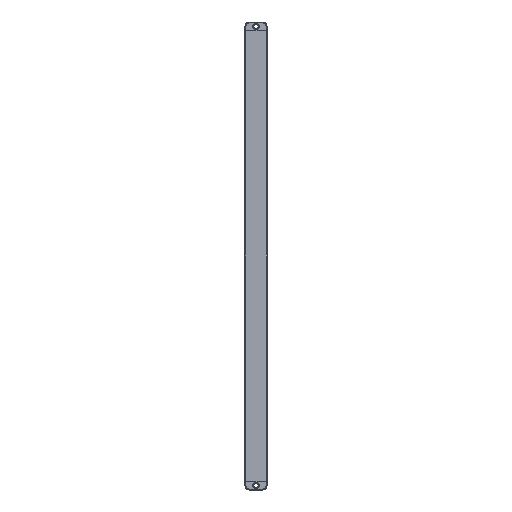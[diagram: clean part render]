
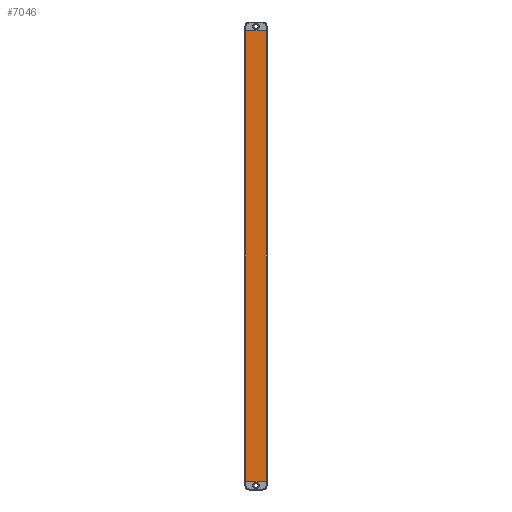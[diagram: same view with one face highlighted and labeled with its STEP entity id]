
A CAD part, front view. The second image highlights one B-rep face of the part: STEP entity #7046.
In plain terms, the highlighted planar face has unit normal (0, -1, 0).
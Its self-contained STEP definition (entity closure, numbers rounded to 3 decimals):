
#212 = CARTESIAN_POINT ( 'NONE',  ( -11.5, -6., 510. ) ) ;
#1108 = CARTESIAN_POINT ( 'NONE',  ( -0.005, -6., 0. ) ) ;
#1227 = DIRECTION ( 'NONE',  ( 0., 0., 1. ) ) ;
#1237 = DIRECTION ( 'NONE',  ( 0., 0., -1. ) ) ;
#1273 = EDGE_CURVE ( 'NONE', #6026, #8601, #9316, .T. ) ;
#1343 = VECTOR ( 'NONE', #1237, 1000. ) ;
#1371 = CARTESIAN_POINT ( 'NONE',  ( -11.5, -6., 510. ) ) ;
#2089 = PLANE ( 'NONE',  #4734 ) ;
#2361 = CARTESIAN_POINT ( 'NONE',  ( 11.5, -6., 0. ) ) ;
#2587 = EDGE_CURVE ( 'NONE', #6026, #11173, #8152, .T. ) ;
#3740 = DIRECTION ( 'NONE',  ( 0., 0., -1. ) ) ;
#3802 = CARTESIAN_POINT ( 'NONE',  ( 11.5, -6., 510. ) ) ;
#3809 = ORIENTED_EDGE ( 'NONE', *, *, #2587, .T. ) ;
#4028 = EDGE_CURVE ( 'NONE', #11173, #6399, #9051, .T. ) ;
#4643 = DIRECTION ( 'NONE',  ( 1., 0., 0. ) ) ;
#4734 = AXIS2_PLACEMENT_3D ( 'NONE', #5632, #9169, #1227 ) ;
#4907 = DIRECTION ( 'NONE',  ( 1., 0., 0. ) ) ;
#5632 = CARTESIAN_POINT ( 'NONE',  ( -0.005, -6., 510. ) ) ;
#5644 = LINE ( 'NONE', #9179, #1343 ) ;
#6026 = VERTEX_POINT ( 'NONE', #11378 ) ;
#6110 = VECTOR ( 'NONE', #3740, 1000. ) ;
#6399 = VERTEX_POINT ( 'NONE', #2361 ) ;
#7046 = ADVANCED_FACE ( 'NONE', ( #10043 ), #2089, .F. ) ;
#7868 = VECTOR ( 'NONE', #4643, 1000. ) ;
#7879 = ORIENTED_EDGE ( 'NONE', *, *, #10401, .F. ) ;
#7918 = ORIENTED_EDGE ( 'NONE', *, *, #4028, .T. ) ;
#7934 = CARTESIAN_POINT ( 'NONE',  ( -11.5, -6., 0. ) ) ;
#8152 = LINE ( 'NONE', #212, #6110 ) ;
#8473 = VECTOR ( 'NONE', #4907, 1000. ) ;
#8601 = VERTEX_POINT ( 'NONE', #3802 ) ;
#9051 = LINE ( 'NONE', #1108, #7868 ) ;
#9169 = DIRECTION ( 'NONE',  ( 0., 1., 0. ) ) ;
#9179 = CARTESIAN_POINT ( 'NONE',  ( 11.5, -6., 510. ) ) ;
#9316 = LINE ( 'NONE', #1371, #8473 ) ;
#9731 = EDGE_LOOP ( 'NONE', ( #7918, #7879, #11272, #3809 ) ) ;
#10043 = FACE_OUTER_BOUND ( 'NONE', #9731, .T. ) ;
#10401 = EDGE_CURVE ( 'NONE', #8601, #6399, #5644, .T. ) ;
#11173 = VERTEX_POINT ( 'NONE', #7934 ) ;
#11272 = ORIENTED_EDGE ( 'NONE', *, *, #1273, .F. ) ;
#11378 = CARTESIAN_POINT ( 'NONE',  ( -11.5, -6., 510. ) ) ;
